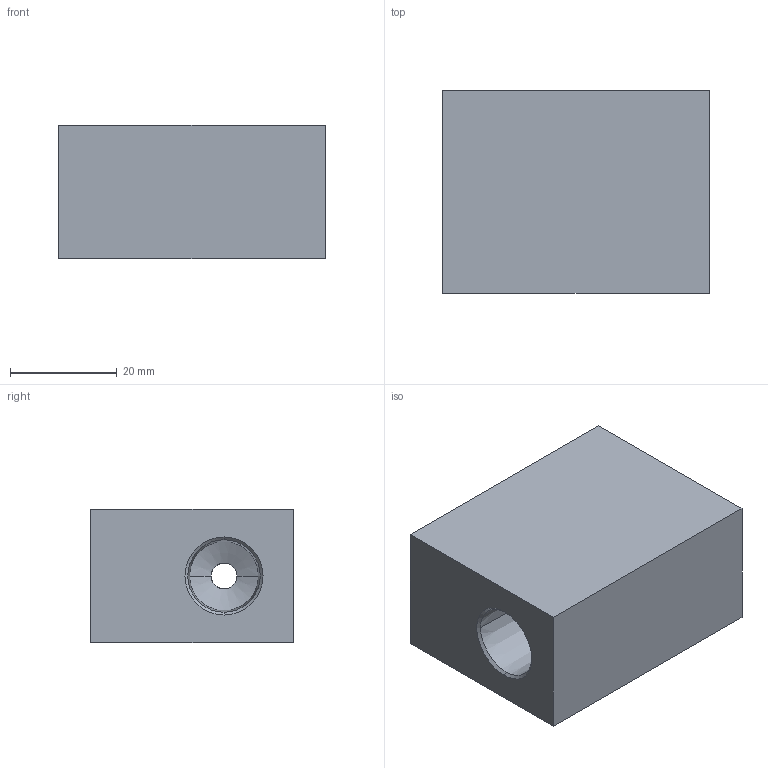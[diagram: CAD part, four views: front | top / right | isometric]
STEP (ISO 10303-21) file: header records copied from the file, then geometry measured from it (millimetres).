
FILE_DESCRIPTION (( 'STEP AP203' ), '1' );
FILE_NAME ('FTNTS04.STEP', '2026-06-26T01:41:51', ( 'USER' ), ( '' ), 'SwSTEP 2.0', 'SolidWorks 2023', '' );
FILE_SCHEMA (( 'CONFIG_CONTROL_DESIGN' ));
Length unit declared in the file: millimetre
Products named in the file (1): FTNTS04
Bounding box: 50 x 38 x 25 mm (x, y, z)
Volume: 40348.5 mm3; surface area: 10342.7 mm2
Topology: 1 solids, 1 shells, 34 faces, 81 edges, 48 vertices
Faces by surface type: cone 18, cylinder 10, plane 6
Entity records: 1062 total; most frequent: DIRECTION 183, CARTESIAN_POINT 176, ORIENTED_EDGE 162, EDGE_CURVE 81, AXIS2_PLACEMENT_3D 71, VERTEX_POINT 48, VECTOR 41, LINE 41
